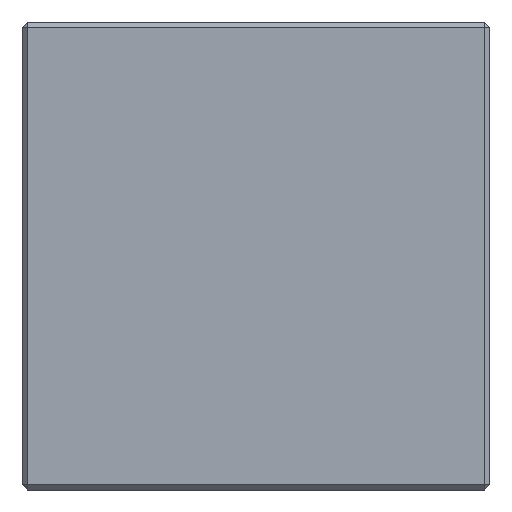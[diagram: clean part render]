
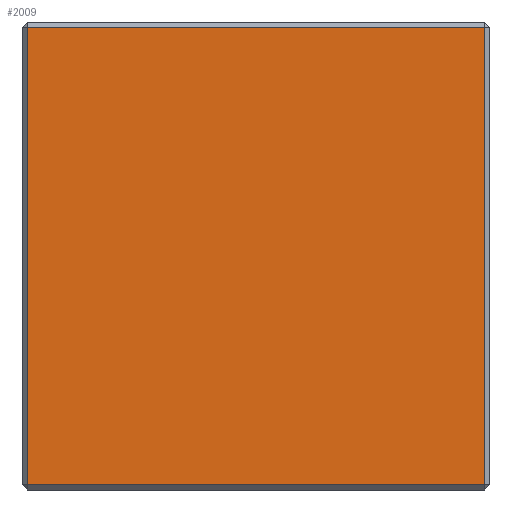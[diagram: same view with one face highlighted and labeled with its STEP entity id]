
A CAD part, left-side view. The second image highlights one B-rep face of the part: STEP entity #2009.
In plain terms, the highlighted planar face has unit normal (-1, 0, 0).
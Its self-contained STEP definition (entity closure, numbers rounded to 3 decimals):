
#125=PLANE('',#2187);
#204=FACE_OUTER_BOUND('',#340,.T.);
#340=EDGE_LOOP('',(#1522,#1523,#1524,#1525));
#646=LINE('',#4197,#750);
#662=LINE('',#4226,#766);
#663=LINE('',#4228,#767);
#672=LINE('',#4245,#776);
#750=VECTOR('',#2478,10.);
#766=VECTOR('',#2508,10.);
#767=VECTOR('',#2511,10.);
#776=VECTOR('',#2532,10.);
#880=VERTEX_POINT('',#4173);
#883=VERTEX_POINT('',#4185);
#885=VERTEX_POINT('',#4191);
#892=VERTEX_POINT('',#4221);
#1101=EDGE_CURVE('',#885,#880,#646,.T.);
#1117=EDGE_CURVE('',#883,#892,#662,.T.);
#1118=EDGE_CURVE('',#892,#885,#663,.T.);
#1127=EDGE_CURVE('',#880,#883,#672,.T.);
#1522=ORIENTED_EDGE('',*,*,#1117,.F.);
#1523=ORIENTED_EDGE('',*,*,#1127,.F.);
#1524=ORIENTED_EDGE('',*,*,#1101,.F.);
#1525=ORIENTED_EDGE('',*,*,#1118,.F.);
#2009=ADVANCED_FACE('',(#204),#125,.T.);
#2187=AXIS2_PLACEMENT_3D('',#4251,#2541,#2542);
#2478=DIRECTION('',(0.,0.,-1.));
#2508=DIRECTION('',(0.,0.,1.));
#2511=DIRECTION('',(0.,-1.,0.));
#2532=DIRECTION('',(0.,1.,0.));
#2541=DIRECTION('center_axis',(-1.,0.,0.));
#2542=DIRECTION('ref_axis',(0.,-1.,0.));
#4173=CARTESIAN_POINT('',(-25.,-8.8,-8.8));
#4185=CARTESIAN_POINT('',(-25.,8.8,-8.8));
#4191=CARTESIAN_POINT('',(-25.,-8.8,8.8));
#4197=CARTESIAN_POINT('',(-25.,-8.8,0.));
#4221=CARTESIAN_POINT('',(-25.,8.8,8.8));
#4226=CARTESIAN_POINT('',(-25.,8.8,0.));
#4228=CARTESIAN_POINT('',(-25.,4.5,8.8));
#4245=CARTESIAN_POINT('',(-25.,4.5,-8.8));
#4251=CARTESIAN_POINT('Origin',(-25.,9.,0.));
